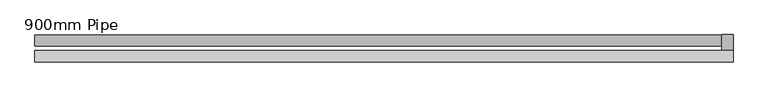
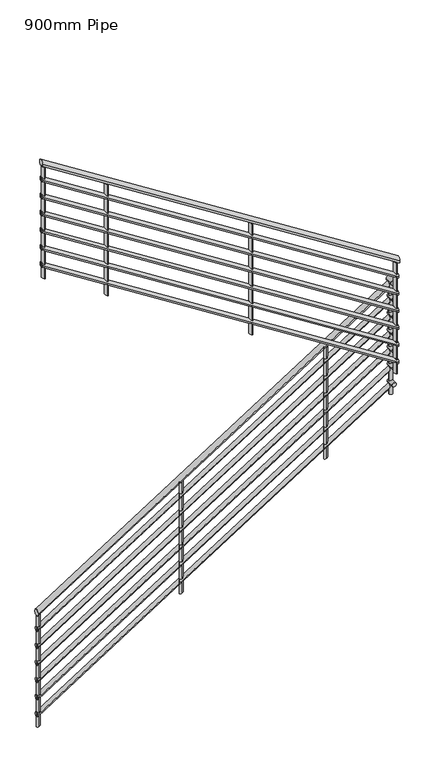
"""IFC4 building model written with IfcOpenShell, lengths in millimetres: railing geometry, 900mm Pipe."""

from ifc_helpers import new_model, si_unit, point, frame, frame_2d, origin, place, context, project, spatial, circle_curve, ellipse_curve, trimmed, segment, composite_curve, outline, extrude, source, transform, mapped, element, save
from ifc_brep_helpers import plane_surface, cylinder_surface, advanced_brep


def railing_900mm_pipe_d5eff310(model_context):
    return source(origin(), model_context, "Body", "SolidModel", [
        advanced_brep(
        [(9044.2181942, -645.4667097, 4551.2938094), (9044.2181942, -685.4667097, 4551.2938094), (11474.2181942, -645.4667097, 6097.6574458), (11474.2181942, -685.4667097, 6097.6574458)],
        [
            (0, 1, ellipse_curve(frame((9044.2181942, -665.4667097, 4551.2938094), z_axis=(-1.0, 0.0, 0.0), x_axis=(0.0, 0.0, -1.0)), 23.7061906, 20.0)),
            (1, 0, ellipse_curve(frame((9044.2181942, -665.4667097, 4551.2938094), z_axis=(-1.0, 0.0, 0.0), x_axis=(0.0, 0.0, -1.0)), 23.7061906, 20.0)),
            (2, 3, ellipse_curve(frame((11474.2181942, -665.4667097, 6097.6574458), z_axis=(1.0, 0.0, 0.0), x_axis=(0.0, 0.0, -1.0)), 23.7061906, 20.0)),
            (3, 2, ellipse_curve(frame((11474.2181942, -665.4667097, 6097.6574458), z_axis=(1.0, 0.0, 0.0), x_axis=(0.0, 0.0, -1.0)), 23.7061906, 20.0)),
            (1, 3),
            (2, 0),
        ],
        [
            plane_surface(frame((9044.2181942, -665.4667097, 4575.0), z_axis=(-1.0, 0.0, 0.0), x_axis=(0.0, 1.0, 0.0))),
            plane_surface(frame((11474.2181942, -665.4667097, 6121.3636364), z_axis=(1.0, 0.0, 0.0), x_axis=(0.0, 1.0, 0.0))),
            cylinder_surface(frame((9054.955704, -665.4667097, 4558.1267702), z_axis=(-0.8436614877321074, 0.0, -0.5368754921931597), x_axis=(0.0, -1.0, 0.0)), 20.0),
        ],
        [
            (0, [[1, 2]]),
            (1, [[3, 4]]),
            (2, [[-2, 5, -3, 6]]),
            (2, [[-1, -6, -4, -5]]),
        ],
    ),
        advanced_brep(
        [(11514.2181942, -645.4667097, 6130.0), (11474.2181942, -645.4667097, 6130.0), (11514.2181942, -702.0090589, 6130.0), (11474.2181942, -702.0090589, 6130.0)],
        [
            (0, 1, circle_curve(frame((11494.2181942, -645.4667097, 6130.0), z_axis=(0.0, 1.0, 0.0), x_axis=(-1.0, 0.0, 0.0)), 20.0)),
            (1, 0, circle_curve(frame((11494.2181942, -645.4667097, 6130.0), z_axis=(0.0, 1.0, 0.0), x_axis=(-1.0, 0.0, 0.0)), 20.0)),
            (2, 3, circle_curve(frame((11494.2181942, -702.0090589, 6130.0), z_axis=(0.0, -1.0, 0.0), x_axis=(-1.0, 0.0, 0.0)), 20.0)),
            (3, 2, circle_curve(frame((11494.2181942, -702.0090589, 6130.0), z_axis=(0.0, -1.0, 0.0), x_axis=(-1.0, 0.0, 0.0)), 20.0)),
            (1, 3),
            (2, 0),
        ],
        [
            plane_surface(frame((11494.2181942, -645.4667097, 6150.0), z_axis=(0.0, 1.0, 0.0), x_axis=(0.0, 0.0, -1.0))),
            plane_surface(frame((11494.2181942, -702.0090589, 6150.0), z_axis=(0.0, -1.0, 0.0), x_axis=(0.0, 0.0, -1.0))),
            cylinder_surface(frame((11494.2181942, -645.4667097, 6130.0), z_axis=(0.0, 1.0, 0.0), x_axis=(-1.0, 0.0, 0.0)), 20.0),
        ],
        [
            (0, [[1, 2]]),
            (1, [[3, 4]]),
            (2, [[-2, 5, -3, 6]]),
            (2, [[-1, -6, -4, -5]]),
        ],
    ),
        advanced_brep(
        [(11514.2181942, -742.0090589, 6304.4756276), (11514.2181942, -702.0090589, 6304.4756276), (9044.2181942, -742.0090589, 7876.2938094), (9044.2181942, -702.0090589, 7876.2938094)],
        [
            (0, 1, ellipse_curve(frame((11514.2181942, -722.0090589, 6304.4756276), z_axis=(1.0, 0.0, 0.0), x_axis=(0.0, 0.0, -1.0)), 23.7061906, 20.0)),
            (1, 0, ellipse_curve(frame((11514.2181942, -722.0090589, 6304.4756276), z_axis=(1.0, 0.0, 0.0), x_axis=(0.0, 0.0, -1.0)), 23.7061906, 20.0)),
            (2, 3, ellipse_curve(frame((9044.2181942, -722.0090589, 7876.2938094), z_axis=(-1.0, 0.0, 0.0), x_axis=(0.0, 0.0, -1.0)), 23.7061906, 20.0)),
            (3, 2, ellipse_curve(frame((9044.2181942, -722.0090589, 7876.2938094), z_axis=(-1.0, 0.0, 0.0), x_axis=(0.0, 0.0, -1.0)), 23.7061906, 20.0)),
            (1, 3),
            (2, 0),
        ],
        [
            plane_surface(frame((11514.2181942, -722.0090589, 6328.1818182), z_axis=(1.0, 0.0, 0.0), x_axis=(0.0, -1.0, 0.0))),
            plane_surface(frame((9044.2181942, -722.0090589, 7900.0), z_axis=(-1.0, 0.0, 0.0), x_axis=(0.0, -1.0, 0.0))),
            cylinder_surface(frame((11503.4806843, -722.0090589, 6311.3085884), z_axis=(0.8436614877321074, 0.0, -0.5368754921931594), x_axis=(0.0, 1.0, 0.0)), 20.0),
        ],
        [
            (0, [[1, 2]]),
            (1, [[3, 4]]),
            (2, [[-2, 5, -3, 6]]),
            (2, [[-1, -6, -4, -5]]),
        ],
    ),
        advanced_brep(
        [(9044.2181942, -650.4667097, 4432.2203571), (9044.2181942, -680.4667097, 4432.2203571), (11479.2181942, -650.4667097, 5981.7658116), (11479.2181942, -680.4667097, 5981.7658116)],
        [
            (0, 1, ellipse_curve(frame((9044.2181942, -665.4667097, 4432.2203571), z_axis=(-1.0, 0.0, 0.0), x_axis=(0.0, 0.0, -1.0)), 17.7796429, 15.0)),
            (1, 0, ellipse_curve(frame((9044.2181942, -665.4667097, 4432.2203571), z_axis=(-1.0, 0.0, 0.0), x_axis=(0.0, 0.0, -1.0)), 17.7796429, 15.0)),
            (2, 3, ellipse_curve(frame((11479.2181942, -665.4667097, 5981.7658116), z_axis=(1.0, 0.0, 0.0), x_axis=(0.0, 0.0, -1.0)), 17.7796429, 15.0)),
            (3, 2, ellipse_curve(frame((11479.2181942, -665.4667097, 5981.7658116), z_axis=(1.0, 0.0, 0.0), x_axis=(0.0, 0.0, -1.0)), 17.7796429, 15.0)),
            (1, 3),
            (2, 0),
        ],
        [
            plane_surface(frame((9044.2181942, -665.4667097, 4450.0), z_axis=(-1.0, 0.0, 0.0), x_axis=(0.0, 1.0, 0.0))),
            plane_surface(frame((11479.2181942, -665.4667097, 5999.5454545), z_axis=(1.0, 0.0, 0.0), x_axis=(0.0, 1.0, 0.0))),
            cylinder_surface(frame((9052.2713265, -665.4667097, 4437.3450777), z_axis=(-0.8436614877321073, 0.0, -0.5368754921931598), x_axis=(0.0, -1.0, 0.0)), 15.0),
        ],
        [
            (0, [[1, 2]]),
            (1, [[3, 4]]),
            (2, [[-2, 5, -3, 6]]),
            (2, [[-1, -6, -4, -5]]),
        ],
    ),
        advanced_brep(
        [(11509.2181942, -650.4667097, 6010.0), (11479.2181942, -650.4667097, 6010.0), (11509.2181942, -707.0090589, 6010.0), (11479.2181942, -707.0090589, 6010.0)],
        [
            (0, 1, circle_curve(frame((11494.2181942, -650.4667097, 6010.0), z_axis=(0.0, 1.0, 0.0), x_axis=(-1.0, 0.0, 0.0)), 15.0)),
            (1, 0, circle_curve(frame((11494.2181942, -650.4667097, 6010.0), z_axis=(0.0, 1.0, 0.0), x_axis=(-1.0, 0.0, 0.0)), 15.0)),
            (2, 3, circle_curve(frame((11494.2181942, -707.0090589, 6010.0), z_axis=(0.0, -1.0, 0.0), x_axis=(-1.0, 0.0, 0.0)), 15.0)),
            (3, 2, circle_curve(frame((11494.2181942, -707.0090589, 6010.0), z_axis=(0.0, -1.0, 0.0), x_axis=(-1.0, 0.0, 0.0)), 15.0)),
            (1, 3),
            (2, 0),
        ],
        [
            plane_surface(frame((11494.2181942, -650.4667097, 6025.0), z_axis=(0.0, 1.0, 0.0), x_axis=(0.0, 0.0, -1.0))),
            plane_surface(frame((11494.2181942, -707.0090589, 6025.0), z_axis=(0.0, -1.0, 0.0), x_axis=(0.0, 0.0, -1.0))),
            cylinder_surface(frame((11494.2181942, -650.4667097, 6010.0), z_axis=(0.0, 1.0, 0.0), x_axis=(-1.0, 0.0, 0.0)), 15.0),
        ],
        [
            (0, [[1, 2]]),
            (1, [[3, 4]]),
            (2, [[-2, 5, -3, 6]]),
            (2, [[-1, -6, -4, -5]]),
        ],
    ),
        advanced_brep(
        [(11509.2181942, -737.0090589, 6188.5839934), (11509.2181942, -707.0090589, 6188.5839934), (9044.2181942, -737.0090589, 7757.2203571), (9044.2181942, -707.0090589, 7757.2203571)],
        [
            (0, 1, ellipse_curve(frame((11509.2181942, -722.0090589, 6188.5839934), z_axis=(1.0, 0.0, 0.0), x_axis=(0.0, 0.0, -1.0)), 17.7796429, 15.0)),
            (1, 0, ellipse_curve(frame((11509.2181942, -722.0090589, 6188.5839934), z_axis=(1.0, 0.0, 0.0), x_axis=(0.0, 0.0, -1.0)), 17.7796429, 15.0)),
            (2, 3, ellipse_curve(frame((9044.2181942, -722.0090589, 7757.2203571), z_axis=(-1.0, 0.0, 0.0), x_axis=(0.0, 0.0, -1.0)), 17.7796429, 15.0)),
            (3, 2, ellipse_curve(frame((9044.2181942, -722.0090589, 7757.2203571), z_axis=(-1.0, 0.0, 0.0), x_axis=(0.0, 0.0, -1.0)), 17.7796429, 15.0)),
            (1, 3),
            (2, 0),
        ],
        [
            plane_surface(frame((11509.2181942, -722.0090589, 6206.3636364), z_axis=(1.0, 0.0, 0.0), x_axis=(0.0, -1.0, 0.0))),
            plane_surface(frame((9044.2181942, -722.0090589, 7775.0), z_axis=(-1.0, 0.0, 0.0), x_axis=(0.0, -1.0, 0.0))),
            cylinder_surface(frame((11501.1650618, -722.0090589, 6193.708714), z_axis=(0.8436614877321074, 0.0, -0.5368754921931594), x_axis=(0.0, 1.0, 0.0)), 15.0),
        ],
        [
            (0, [[1, 2]]),
            (1, [[3, 4]]),
            (2, [[-2, 5, -3, 6]]),
            (2, [[-1, -6, -4, -5]]),
        ],
    ),
        advanced_brep(
        [(9044.2181942, -650.4667097, 4307.2203571), (9044.2181942, -680.4667097, 4307.2203571), (11479.2181942, -650.4667097, 5856.7658116), (11479.2181942, -680.4667097, 5856.7658116)],
        [
            (0, 1, ellipse_curve(frame((9044.2181942, -665.4667097, 4307.2203571), z_axis=(-1.0, 0.0, 0.0), x_axis=(0.0, 0.0, -1.0)), 17.7796429, 15.0)),
            (1, 0, ellipse_curve(frame((9044.2181942, -665.4667097, 4307.2203571), z_axis=(-1.0, 0.0, 0.0), x_axis=(0.0, 0.0, -1.0)), 17.7796429, 15.0)),
            (2, 3, ellipse_curve(frame((11479.2181942, -665.4667097, 5856.7658116), z_axis=(1.0, 0.0, 0.0), x_axis=(0.0, 0.0, -1.0)), 17.7796429, 15.0)),
            (3, 2, ellipse_curve(frame((11479.2181942, -665.4667097, 5856.7658116), z_axis=(1.0, 0.0, 0.0), x_axis=(0.0, 0.0, -1.0)), 17.7796429, 15.0)),
            (1, 3),
            (2, 0),
        ],
        [
            plane_surface(frame((9044.2181942, -665.4667097, 4325.0), z_axis=(-1.0, 0.0, 0.0), x_axis=(0.0, 1.0, 0.0))),
            plane_surface(frame((11479.2181942, -665.4667097, 5874.5454545), z_axis=(1.0, 0.0, 0.0), x_axis=(0.0, 1.0, 0.0))),
            cylinder_surface(frame((9052.2713265, -665.4667097, 4312.3450777), z_axis=(-0.8436614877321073, 0.0, -0.5368754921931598), x_axis=(0.0, -1.0, 0.0)), 15.0),
        ],
        [
            (0, [[1, 2]]),
            (1, [[3, 4]]),
            (2, [[-2, 5, -3, 6]]),
            (2, [[-1, -6, -4, -5]]),
        ],
    ),
        advanced_brep(
        [(11509.2181942, -650.4667097, 5885.0), (11479.2181942, -650.4667097, 5885.0), (11509.2181942, -707.0090589, 5885.0), (11479.2181942, -707.0090589, 5885.0)],
        [
            (0, 1, circle_curve(frame((11494.2181942, -650.4667097, 5885.0), z_axis=(0.0, 1.0, 0.0), x_axis=(-1.0, 0.0, 0.0)), 15.0)),
            (1, 0, circle_curve(frame((11494.2181942, -650.4667097, 5885.0), z_axis=(0.0, 1.0, 0.0), x_axis=(-1.0, 0.0, 0.0)), 15.0)),
            (2, 3, circle_curve(frame((11494.2181942, -707.0090589, 5885.0), z_axis=(0.0, -1.0, 0.0), x_axis=(-1.0, 0.0, 0.0)), 15.0)),
            (3, 2, circle_curve(frame((11494.2181942, -707.0090589, 5885.0), z_axis=(0.0, -1.0, 0.0), x_axis=(-1.0, 0.0, 0.0)), 15.0)),
            (1, 3),
            (2, 0),
        ],
        [
            plane_surface(frame((11494.2181942, -650.4667097, 5900.0), z_axis=(0.0, 1.0, 0.0), x_axis=(0.0, 0.0, -1.0))),
            plane_surface(frame((11494.2181942, -707.0090589, 5900.0), z_axis=(0.0, -1.0, 0.0), x_axis=(0.0, 0.0, -1.0))),
            cylinder_surface(frame((11494.2181942, -650.4667097, 5885.0), z_axis=(0.0, 1.0, 0.0), x_axis=(-1.0, 0.0, 0.0)), 15.0),
        ],
        [
            (0, [[1, 2]]),
            (1, [[3, 4]]),
            (2, [[-2, 5, -3, 6]]),
            (2, [[-1, -6, -4, -5]]),
        ],
    ),
        advanced_brep(
        [(11509.2181942, -737.0090589, 6063.5839934), (11509.2181942, -707.0090589, 6063.5839934), (9044.2181942, -737.0090589, 7632.2203571), (9044.2181942, -707.0090589, 7632.2203571)],
        [
            (0, 1, ellipse_curve(frame((11509.2181942, -722.0090589, 6063.5839934), z_axis=(1.0, 0.0, 0.0), x_axis=(0.0, 0.0, -1.0)), 17.7796429, 15.0)),
            (1, 0, ellipse_curve(frame((11509.2181942, -722.0090589, 6063.5839934), z_axis=(1.0, 0.0, 0.0), x_axis=(0.0, 0.0, -1.0)), 17.7796429, 15.0)),
            (2, 3, ellipse_curve(frame((9044.2181942, -722.0090589, 7632.2203571), z_axis=(-1.0, 0.0, 0.0), x_axis=(0.0, 0.0, -1.0)), 17.7796429, 15.0)),
            (3, 2, ellipse_curve(frame((9044.2181942, -722.0090589, 7632.2203571), z_axis=(-1.0, 0.0, 0.0), x_axis=(0.0, 0.0, -1.0)), 17.7796429, 15.0)),
            (1, 3),
            (2, 0),
        ],
        [
            plane_surface(frame((11509.2181942, -722.0090589, 6081.3636364), z_axis=(1.0, 0.0, 0.0), x_axis=(0.0, -1.0, 0.0))),
            plane_surface(frame((9044.2181942, -722.0090589, 7650.0), z_axis=(-1.0, 0.0, 0.0), x_axis=(0.0, -1.0, 0.0))),
            cylinder_surface(frame((11501.1650618, -722.0090589, 6068.708714), z_axis=(0.8436614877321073, 0.0, -0.5368754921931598), x_axis=(0.0, 1.0, 0.0)), 15.0),
        ],
        [
            (0, [[1, 2]]),
            (1, [[3, 4]]),
            (2, [[-2, 5, -3, 6]]),
            (2, [[-1, -6, -4, -5]]),
        ],
    ),
        advanced_brep(
        [(9044.2181942, -650.4667097, 4182.2203571), (9044.2181942, -680.4667097, 4182.2203571), (11479.2181942, -650.4667097, 5731.7658116), (11479.2181942, -680.4667097, 5731.7658116)],
        [
            (0, 1, ellipse_curve(frame((9044.2181942, -665.4667097, 4182.2203571), z_axis=(-1.0, 0.0, 0.0), x_axis=(0.0, 0.0, -1.0)), 17.7796429, 15.0)),
            (1, 0, ellipse_curve(frame((9044.2181942, -665.4667097, 4182.2203571), z_axis=(-1.0, 0.0, 0.0), x_axis=(0.0, 0.0, -1.0)), 17.7796429, 15.0)),
            (2, 3, ellipse_curve(frame((11479.2181942, -665.4667097, 5731.7658116), z_axis=(1.0, 0.0, 0.0), x_axis=(0.0, 0.0, -1.0)), 17.7796429, 15.0)),
            (3, 2, ellipse_curve(frame((11479.2181942, -665.4667097, 5731.7658116), z_axis=(1.0, 0.0, 0.0), x_axis=(0.0, 0.0, -1.0)), 17.7796429, 15.0)),
            (1, 3),
            (2, 0),
        ],
        [
            plane_surface(frame((9044.2181942, -665.4667097, 4200.0), z_axis=(-1.0, 0.0, 0.0), x_axis=(0.0, 1.0, 0.0))),
            plane_surface(frame((11479.2181942, -665.4667097, 5749.5454545), z_axis=(1.0, 0.0, 0.0), x_axis=(0.0, 1.0, 0.0))),
            cylinder_surface(frame((9052.2713265, -665.4667097, 4187.3450777), z_axis=(-0.8436614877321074, 0.0, -0.5368754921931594), x_axis=(0.0, -1.0, 0.0)), 15.0),
        ],
        [
            (0, [[1, 2]]),
            (1, [[3, 4]]),
            (2, [[-2, 5, -3, 6]]),
            (2, [[-1, -6, -4, -5]]),
        ],
    ),
        advanced_brep(
        [(11509.2181942, -650.4667097, 5760.0), (11479.2181942, -650.4667097, 5760.0), (11509.2181942, -707.0090589, 5760.0), (11479.2181942, -707.0090589, 5760.0)],
        [
            (0, 1, circle_curve(frame((11494.2181942, -650.4667097, 5760.0), z_axis=(0.0, 1.0, 0.0), x_axis=(-1.0, 0.0, 0.0)), 15.0)),
            (1, 0, circle_curve(frame((11494.2181942, -650.4667097, 5760.0), z_axis=(0.0, 1.0, 0.0), x_axis=(-1.0, 0.0, 0.0)), 15.0)),
            (2, 3, circle_curve(frame((11494.2181942, -707.0090589, 5760.0), z_axis=(0.0, -1.0, 0.0), x_axis=(-1.0, 0.0, 0.0)), 15.0)),
            (3, 2, circle_curve(frame((11494.2181942, -707.0090589, 5760.0), z_axis=(0.0, -1.0, 0.0), x_axis=(-1.0, 0.0, 0.0)), 15.0)),
            (1, 3),
            (2, 0),
        ],
        [
            plane_surface(frame((11494.2181942, -650.4667097, 5775.0), z_axis=(0.0, 1.0, 0.0), x_axis=(0.0, 0.0, -1.0))),
            plane_surface(frame((11494.2181942, -707.0090589, 5775.0), z_axis=(0.0, -1.0, 0.0), x_axis=(0.0, 0.0, -1.0))),
            cylinder_surface(frame((11494.2181942, -650.4667097, 5760.0), z_axis=(0.0, 1.0, 0.0), x_axis=(-1.0, 0.0, 0.0)), 15.0),
        ],
        [
            (0, [[1, 2]]),
            (1, [[3, 4]]),
            (2, [[-2, 5, -3, 6]]),
            (2, [[-1, -6, -4, -5]]),
        ],
    ),
        advanced_brep(
        [(11509.2181942, -737.0090589, 5938.5839934), (11509.2181942, -707.0090589, 5938.5839934), (9044.2181942, -737.0090589, 7507.2203571), (9044.2181942, -707.0090589, 7507.2203571)],
        [
            (0, 1, ellipse_curve(frame((11509.2181942, -722.0090589, 5938.5839934), z_axis=(1.0, 0.0, 0.0), x_axis=(0.0, 0.0, -1.0)), 17.7796429, 15.0)),
            (1, 0, ellipse_curve(frame((11509.2181942, -722.0090589, 5938.5839934), z_axis=(1.0, 0.0, 0.0), x_axis=(0.0, 0.0, -1.0)), 17.7796429, 15.0)),
            (2, 3, ellipse_curve(frame((9044.2181942, -722.0090589, 7507.2203571), z_axis=(-1.0, 0.0, 0.0), x_axis=(0.0, 0.0, -1.0)), 17.7796429, 15.0)),
            (3, 2, ellipse_curve(frame((9044.2181942, -722.0090589, 7507.2203571), z_axis=(-1.0, 0.0, 0.0), x_axis=(0.0, 0.0, -1.0)), 17.7796429, 15.0)),
            (1, 3),
            (2, 0),
        ],
        [
            plane_surface(frame((11509.2181942, -722.0090589, 5956.3636364), z_axis=(1.0, 0.0, 0.0), x_axis=(0.0, -1.0, 0.0))),
            plane_surface(frame((9044.2181942, -722.0090589, 7525.0), z_axis=(-1.0, 0.0, 0.0), x_axis=(0.0, -1.0, 0.0))),
            cylinder_surface(frame((11501.1650618, -722.0090589, 5943.708714), z_axis=(0.8436614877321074, 0.0, -0.5368754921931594), x_axis=(0.0, 1.0, 0.0)), 15.0),
        ],
        [
            (0, [[1, 2]]),
            (1, [[3, 4]]),
            (2, [[-2, 5, -3, 6]]),
            (2, [[-1, -6, -4, -5]]),
        ],
    ),
        advanced_brep(
        [(9044.2181942, -650.4667097, 4057.2203571), (9044.2181942, -680.4667097, 4057.2203571), (11479.2181942, -650.4667097, 5606.7658116), (11479.2181942, -680.4667097, 5606.7658116)],
        [
            (0, 1, ellipse_curve(frame((9044.2181942, -665.4667097, 4057.2203571), z_axis=(-1.0, 0.0, 0.0), x_axis=(0.0, 0.0, -1.0)), 17.7796429, 15.0)),
            (1, 0, ellipse_curve(frame((9044.2181942, -665.4667097, 4057.2203571), z_axis=(-1.0, 0.0, 0.0), x_axis=(0.0, 0.0, -1.0)), 17.7796429, 15.0)),
            (2, 3, ellipse_curve(frame((11479.2181942, -665.4667097, 5606.7658116), z_axis=(1.0, 0.0, 0.0), x_axis=(0.0, 0.0, -1.0)), 17.7796429, 15.0)),
            (3, 2, ellipse_curve(frame((11479.2181942, -665.4667097, 5606.7658116), z_axis=(1.0, 0.0, 0.0), x_axis=(0.0, 0.0, -1.0)), 17.7796429, 15.0)),
            (1, 3),
            (2, 0),
        ],
        [
            plane_surface(frame((9044.2181942, -665.4667097, 4075.0), z_axis=(-1.0, 0.0, 0.0), x_axis=(0.0, 1.0, 0.0))),
            plane_surface(frame((11479.2181942, -665.4667097, 5624.5454545), z_axis=(1.0, 0.0, 0.0), x_axis=(0.0, 1.0, 0.0))),
            cylinder_surface(frame((9052.2713265, -665.4667097, 4062.3450777), z_axis=(-0.8436614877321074, 0.0, -0.5368754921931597), x_axis=(0.0, -1.0, 0.0)), 15.0),
        ],
        [
            (0, [[1, 2]]),
            (1, [[3, 4]]),
            (2, [[-2, 5, -3, 6]]),
            (2, [[-1, -6, -4, -5]]),
        ],
    ),
        advanced_brep(
        [(11509.2181942, -650.4667097, 5635.0), (11479.2181942, -650.4667097, 5635.0), (11509.2181942, -707.0090589, 5635.0), (11479.2181942, -707.0090589, 5635.0)],
        [
            (0, 1, circle_curve(frame((11494.2181942, -650.4667097, 5635.0), z_axis=(0.0, 1.0, 0.0), x_axis=(-1.0, 0.0, 0.0)), 15.0)),
            (1, 0, circle_curve(frame((11494.2181942, -650.4667097, 5635.0), z_axis=(0.0, 1.0, 0.0), x_axis=(-1.0, 0.0, 0.0)), 15.0)),
            (2, 3, circle_curve(frame((11494.2181942, -707.0090589, 5635.0), z_axis=(0.0, -1.0, 0.0), x_axis=(-1.0, 0.0, 0.0)), 15.0)),
            (3, 2, circle_curve(frame((11494.2181942, -707.0090589, 5635.0), z_axis=(0.0, -1.0, 0.0), x_axis=(-1.0, 0.0, 0.0)), 15.0)),
            (1, 3),
            (2, 0),
        ],
        [
            plane_surface(frame((11494.2181942, -650.4667097, 5650.0), z_axis=(0.0, 1.0, 0.0), x_axis=(0.0, 0.0, -1.0))),
            plane_surface(frame((11494.2181942, -707.0090589, 5650.0), z_axis=(0.0, -1.0, 0.0), x_axis=(0.0, 0.0, -1.0))),
            cylinder_surface(frame((11494.2181942, -650.4667097, 5635.0), z_axis=(0.0, 1.0, 0.0), x_axis=(-1.0, 0.0, 0.0)), 15.0),
        ],
        [
            (0, [[1, 2]]),
            (1, [[3, 4]]),
            (2, [[-2, 5, -3, 6]]),
            (2, [[-1, -6, -4, -5]]),
        ],
    ),
        advanced_brep(
        [(11509.2181942, -737.0090589, 5813.5839934), (11509.2181942, -707.0090589, 5813.5839934), (9044.2181942, -737.0090589, 7382.2203571), (9044.2181942, -707.0090589, 7382.2203571)],
        [
            (0, 1, ellipse_curve(frame((11509.2181942, -722.0090589, 5813.5839934), z_axis=(1.0, 0.0, 0.0), x_axis=(0.0, 0.0, -1.0)), 17.7796429, 15.0)),
            (1, 0, ellipse_curve(frame((11509.2181942, -722.0090589, 5813.5839934), z_axis=(1.0, 0.0, 0.0), x_axis=(0.0, 0.0, -1.0)), 17.7796429, 15.0)),
            (2, 3, ellipse_curve(frame((9044.2181942, -722.0090589, 7382.2203571), z_axis=(-1.0, 0.0, 0.0), x_axis=(0.0, 0.0, -1.0)), 17.7796429, 15.0)),
            (3, 2, ellipse_curve(frame((9044.2181942, -722.0090589, 7382.2203571), z_axis=(-1.0, 0.0, 0.0), x_axis=(0.0, 0.0, -1.0)), 17.7796429, 15.0)),
            (1, 3),
            (2, 0),
        ],
        [
            plane_surface(frame((11509.2181942, -722.0090589, 5831.3636364), z_axis=(1.0, 0.0, 0.0), x_axis=(0.0, -1.0, 0.0))),
            plane_surface(frame((9044.2181942, -722.0090589, 7400.0), z_axis=(-1.0, 0.0, 0.0), x_axis=(0.0, -1.0, 0.0))),
            cylinder_surface(frame((11501.1650618, -722.0090589, 5818.708714), z_axis=(0.8436614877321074, 0.0, -0.5368754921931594), x_axis=(0.0, 1.0, 0.0)), 15.0),
        ],
        [
            (0, [[1, 2]]),
            (1, [[3, 4]]),
            (2, [[-2, 5, -3, 6]]),
            (2, [[-1, -6, -4, -5]]),
        ],
    ),
        advanced_brep(
        [(9044.2181942, -650.4667097, 3932.2203571), (9044.2181942, -680.4667097, 3932.2203571), (11479.2181942, -650.4667097, 5481.7658116), (11479.2181942, -680.4667097, 5481.7658116)],
        [
            (0, 1, ellipse_curve(frame((9044.2181942, -665.4667097, 3932.2203571), z_axis=(-1.0, 0.0, 0.0), x_axis=(0.0, 0.0, -1.0)), 17.7796429, 15.0)),
            (1, 0, ellipse_curve(frame((9044.2181942, -665.4667097, 3932.2203571), z_axis=(-1.0, 0.0, 0.0), x_axis=(0.0, 0.0, -1.0)), 17.7796429, 15.0)),
            (2, 3, ellipse_curve(frame((11479.2181942, -665.4667097, 5481.7658116), z_axis=(1.0, 0.0, 0.0), x_axis=(0.0, 0.0, -1.0)), 17.7796429, 15.0)),
            (3, 2, ellipse_curve(frame((11479.2181942, -665.4667097, 5481.7658116), z_axis=(1.0, 0.0, 0.0), x_axis=(0.0, 0.0, -1.0)), 17.7796429, 15.0)),
            (1, 3),
            (2, 0),
        ],
        [
            plane_surface(frame((9044.2181942, -665.4667097, 3950.0), z_axis=(-1.0, 0.0, 0.0), x_axis=(0.0, 1.0, 0.0))),
            plane_surface(frame((11479.2181942, -665.4667097, 5499.5454545), z_axis=(1.0, 0.0, 0.0), x_axis=(0.0, 1.0, 0.0))),
            cylinder_surface(frame((9052.2713265, -665.4667097, 3937.3450777), z_axis=(-0.8436614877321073, 0.0, -0.5368754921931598), x_axis=(0.0, -1.0, 0.0)), 15.0),
        ],
        [
            (0, [[1, 2]]),
            (1, [[3, 4]]),
            (2, [[-2, 5, -3, 6]]),
            (2, [[-1, -6, -4, -5]]),
        ],
    ),
        advanced_brep(
        [(11509.2181942, -650.4667097, 5510.0), (11479.2181942, -650.4667097, 5510.0), (11509.2181942, -707.0090589, 5510.0), (11479.2181942, -707.0090589, 5510.0)],
        [
            (0, 1, circle_curve(frame((11494.2181942, -650.4667097, 5510.0), z_axis=(0.0, 1.0, 0.0), x_axis=(-1.0, 0.0, 0.0)), 15.0)),
            (1, 0, circle_curve(frame((11494.2181942, -650.4667097, 5510.0), z_axis=(0.0, 1.0, 0.0), x_axis=(-1.0, 0.0, 0.0)), 15.0)),
            (2, 3, circle_curve(frame((11494.2181942, -707.0090589, 5510.0), z_axis=(0.0, -1.0, 0.0), x_axis=(-1.0, 0.0, 0.0)), 15.0)),
            (3, 2, circle_curve(frame((11494.2181942, -707.0090589, 5510.0), z_axis=(0.0, -1.0, 0.0), x_axis=(-1.0, 0.0, 0.0)), 15.0)),
            (1, 3),
            (2, 0),
        ],
        [
            plane_surface(frame((11494.2181942, -650.4667097, 5525.0), z_axis=(0.0, 1.0, 0.0), x_axis=(0.0, 0.0, -1.0))),
            plane_surface(frame((11494.2181942, -707.0090589, 5525.0), z_axis=(0.0, -1.0, 0.0), x_axis=(0.0, 0.0, -1.0))),
            cylinder_surface(frame((11494.2181942, -650.4667097, 5510.0), z_axis=(0.0, 1.0, 0.0), x_axis=(-1.0, 0.0, 0.0)), 15.0),
        ],
        [
            (0, [[1, 2]]),
            (1, [[3, 4]]),
            (2, [[-2, 5, -3, 6]]),
            (2, [[-1, -6, -4, -5]]),
        ],
    ),
        advanced_brep(
        [(11509.2181942, -737.0090589, 5688.5839934), (11509.2181942, -707.0090589, 5688.5839934), (9044.2181942, -737.0090589, 7257.2203571), (9044.2181942, -707.0090589, 7257.2203571)],
        [
            (0, 1, ellipse_curve(frame((11509.2181942, -722.0090589, 5688.5839934), z_axis=(1.0, 0.0, 0.0), x_axis=(0.0, 0.0, -1.0)), 17.7796429, 15.0)),
            (1, 0, ellipse_curve(frame((11509.2181942, -722.0090589, 5688.5839934), z_axis=(1.0, 0.0, 0.0), x_axis=(0.0, 0.0, -1.0)), 17.7796429, 15.0)),
            (2, 3, ellipse_curve(frame((9044.2181942, -722.0090589, 7257.2203571), z_axis=(-1.0, 0.0, 0.0), x_axis=(0.0, 0.0, -1.0)), 17.7796429, 15.0)),
            (3, 2, ellipse_curve(frame((9044.2181942, -722.0090589, 7257.2203571), z_axis=(-1.0, 0.0, 0.0), x_axis=(0.0, 0.0, -1.0)), 17.7796429, 15.0)),
            (1, 3),
            (2, 0),
        ],
        [
            plane_surface(frame((11509.2181942, -722.0090589, 5706.3636364), z_axis=(1.0, 0.0, 0.0), x_axis=(0.0, -1.0, 0.0))),
            plane_surface(frame((9044.2181942, -722.0090589, 7275.0), z_axis=(-1.0, 0.0, 0.0), x_axis=(0.0, -1.0, 0.0))),
            cylinder_surface(frame((11501.1650618, -722.0090589, 5693.708714), z_axis=(0.8436614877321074, 0.0, -0.5368754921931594), x_axis=(0.0, 1.0, 0.0)), 15.0),
        ],
        [
            (0, [[1, 2]]),
            (1, [[3, 4]]),
            (2, [[-2, 5, -3, 6]]),
            (2, [[-1, -6, -4, -5]]),
        ],
    ),
        advanced_brep(
        [(9044.2181942, -650.4667097, 3807.2203571), (9044.2181942, -680.4667097, 3807.2203571), (11479.2181942, -650.4667097, 5356.7658116), (11479.2181942, -680.4667097, 5356.7658116)],
        [
            (0, 1, ellipse_curve(frame((9044.2181942, -665.4667097, 3807.2203571), z_axis=(-1.0, 0.0, 0.0), x_axis=(0.0, 0.0, -1.0)), 17.7796429, 15.0)),
            (1, 0, ellipse_curve(frame((9044.2181942, -665.4667097, 3807.2203571), z_axis=(-1.0, 0.0, 0.0), x_axis=(0.0, 0.0, -1.0)), 17.7796429, 15.0)),
            (2, 3, ellipse_curve(frame((11479.2181942, -665.4667097, 5356.7658116), z_axis=(1.0, 0.0, 0.0), x_axis=(0.0, 0.0, -1.0)), 17.7796429, 15.0)),
            (3, 2, ellipse_curve(frame((11479.2181942, -665.4667097, 5356.7658116), z_axis=(1.0, 0.0, 0.0), x_axis=(0.0, 0.0, -1.0)), 17.7796429, 15.0)),
            (1, 3),
            (2, 0),
        ],
        [
            plane_surface(frame((9044.2181942, -665.4667097, 3825.0), z_axis=(-1.0, 0.0, 0.0), x_axis=(0.0, 1.0, 0.0))),
            plane_surface(frame((11479.2181942, -665.4667097, 5374.5454545), z_axis=(1.0, 0.0, 0.0), x_axis=(0.0, 1.0, 0.0))),
            cylinder_surface(frame((9052.2713265, -665.4667097, 3812.3450777), z_axis=(-0.8436614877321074, 0.0, -0.5368754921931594), x_axis=(0.0, -1.0, 0.0)), 15.0),
        ],
        [
            (0, [[1, 2]]),
            (1, [[3, 4]]),
            (2, [[-2, 5, -3, 6]]),
            (2, [[-1, -6, -4, -5]]),
        ],
    ),
        advanced_brep(
        [(11509.2181942, -650.4667097, 5385.0), (11479.2181942, -650.4667097, 5385.0), (11509.2181942, -707.0090589, 5385.0), (11479.2181942, -707.0090589, 5385.0)],
        [
            (0, 1, circle_curve(frame((11494.2181942, -650.4667097, 5385.0), z_axis=(0.0, 1.0, 0.0), x_axis=(-1.0, 0.0, 0.0)), 15.0)),
            (1, 0, circle_curve(frame((11494.2181942, -650.4667097, 5385.0), z_axis=(0.0, 1.0, 0.0), x_axis=(-1.0, 0.0, 0.0)), 15.0)),
            (2, 3, circle_curve(frame((11494.2181942, -707.0090589, 5385.0), z_axis=(0.0, -1.0, 0.0), x_axis=(-1.0, 0.0, 0.0)), 15.0)),
            (3, 2, circle_curve(frame((11494.2181942, -707.0090589, 5385.0), z_axis=(0.0, -1.0, 0.0), x_axis=(-1.0, 0.0, 0.0)), 15.0)),
            (1, 3),
            (2, 0),
        ],
        [
            plane_surface(frame((11494.2181942, -650.4667097, 5400.0), z_axis=(0.0, 1.0, 0.0), x_axis=(0.0, 0.0, -1.0))),
            plane_surface(frame((11494.2181942, -707.0090589, 5400.0), z_axis=(0.0, -1.0, 0.0), x_axis=(0.0, 0.0, -1.0))),
            cylinder_surface(frame((11494.2181942, -650.4667097, 5385.0), z_axis=(0.0, 1.0, 0.0), x_axis=(-1.0, 0.0, 0.0)), 15.0),
        ],
        [
            (0, [[1, 2]]),
            (1, [[3, 4]]),
            (2, [[-2, 5, -3, 6]]),
            (2, [[-1, -6, -4, -5]]),
        ],
    ),
        advanced_brep(
        [(11509.2181942, -737.0090589, 5563.5839934), (11509.2181942, -707.0090589, 5563.5839934), (9044.2181942, -737.0090589, 7132.2203571), (9044.2181942, -707.0090589, 7132.2203571)],
        [
            (0, 1, ellipse_curve(frame((11509.2181942, -722.0090589, 5563.5839934), z_axis=(1.0, 0.0, 0.0), x_axis=(0.0, 0.0, -1.0)), 17.7796429, 15.0)),
            (1, 0, ellipse_curve(frame((11509.2181942, -722.0090589, 5563.5839934), z_axis=(1.0, 0.0, 0.0), x_axis=(0.0, 0.0, -1.0)), 17.7796429, 15.0)),
            (2, 3, ellipse_curve(frame((9044.2181942, -722.0090589, 7132.2203571), z_axis=(-1.0, 0.0, 0.0), x_axis=(0.0, 0.0, -1.0)), 17.7796429, 15.0)),
            (3, 2, ellipse_curve(frame((9044.2181942, -722.0090589, 7132.2203571), z_axis=(-1.0, 0.0, 0.0), x_axis=(0.0, 0.0, -1.0)), 17.7796429, 15.0)),
            (1, 3),
            (2, 0),
        ],
        [
            plane_surface(frame((11509.2181942, -722.0090589, 5581.3636364), z_axis=(1.0, 0.0, 0.0), x_axis=(0.0, -1.0, 0.0))),
            plane_surface(frame((9044.2181942, -722.0090589, 7150.0), z_axis=(-1.0, 0.0, 0.0), x_axis=(0.0, -1.0, 0.0))),
            cylinder_surface(frame((11501.1650618, -722.0090589, 5568.708714), z_axis=(0.8436614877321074, 0.0, -0.5368754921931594), x_axis=(0.0, 1.0, 0.0)), 15.0),
        ],
        [
            (0, [[1, 2]]),
            (1, [[3, 4]]),
            (2, [[-2, 5, -3, 6]]),
            (2, [[-1, -6, -4, -5]]),
        ],
    ),
        advanced_brep(
        [(9494.2181942, -709.5090589, 7566.2239825), (9494.2181942, -709.5090589, 6754.1032768), (9494.2181942, -734.5090589, 6754.1032768), (9494.2181942, -734.5090589, 7566.2239825)],
        [
            (0, 1),
            (1, 2, ellipse_curve(frame((9494.2181942, -722.0090589, 6754.1032768), z_axis=(0.5368754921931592, 0.0, 0.8436614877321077), x_axis=(-0.8436614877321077, 0.0, 0.5368754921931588)), 14.8163691, 12.5)),
            (2, 3),
            (3, 0, ellipse_curve(frame((9494.2181942, -722.0090589, 7566.2239825), z_axis=(-0.5368754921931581, 0.0, -0.8436614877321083), x_axis=(-0.8436614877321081, 0.0, 0.5368754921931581)), 14.8163691, 12.5)),
            (0, 3, ellipse_curve(frame((9494.2181942, -722.0090589, 7566.2239825), z_axis=(-0.5368754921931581, 0.0, -0.8436614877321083), x_axis=(-0.8436614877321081, 0.0, 0.5368754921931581)), 14.8163691, 12.5)),
            (2, 1, ellipse_curve(frame((9494.2181942, -722.0090589, 6754.1032768), z_axis=(0.5368754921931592, 0.0, 0.8436614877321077), x_axis=(-0.8436614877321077, 0.0, 0.5368754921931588)), 14.8163691, 12.5)),
        ],
        [
            cylinder_surface(frame((9494.2181942, -722.0090589, 6654.1032768), z_axis=(0.0, 0.0, 1.0), x_axis=(0.0, -1.0, 0.0)), 12.5),
            plane_surface(frame((9469.2181942, -747.0090589, 7582.1330734), z_axis=(0.5368754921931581, 0.0, 0.8436614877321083), x_axis=(0.0, 1.0, 0.0))),
            plane_surface(frame((9519.2181942, -747.0090589, 6738.1941859), z_axis=(-0.5368754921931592, 0.0, -0.8436614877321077), x_axis=(0.0, 1.0, 0.0))),
        ],
        [
            (0, [[1, 2, 3, 4]]),
            (0, [[-1, 5, -3, 6]]),
            (1, [[-4, -5]]),
            (2, [[-2, -6]]),
        ],
    ),
        advanced_brep(
        [(10494.2181942, -709.5090589, 6929.8603461), (10494.2181942, -709.5090589, 6117.7396405), (10494.2181942, -734.5090589, 6117.7396405), (10494.2181942, -734.5090589, 6929.8603461)],
        [
            (0, 1),
            (1, 2, ellipse_curve(frame((10494.2181942, -722.0090589, 6117.7396405), z_axis=(0.5368754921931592, 0.0, 0.8436614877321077), x_axis=(-0.8436614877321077, 0.0, 0.5368754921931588)), 14.8163691, 12.5)),
            (2, 3),
            (3, 0, ellipse_curve(frame((10494.2181942, -722.0090589, 6929.8603461), z_axis=(-0.5368754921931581, 0.0, -0.8436614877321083), x_axis=(-0.8436614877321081, 0.0, 0.5368754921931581)), 14.8163691, 12.5)),
            (0, 3, ellipse_curve(frame((10494.2181942, -722.0090589, 6929.8603461), z_axis=(-0.5368754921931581, 0.0, -0.8436614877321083), x_axis=(-0.8436614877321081, 0.0, 0.5368754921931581)), 14.8163691, 12.5)),
            (2, 1, ellipse_curve(frame((10494.2181942, -722.0090589, 6117.7396405), z_axis=(0.5368754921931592, 0.0, 0.8436614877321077), x_axis=(-0.8436614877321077, 0.0, 0.5368754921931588)), 14.8163691, 12.5)),
        ],
        [
            cylinder_surface(frame((10494.2181942, -722.0090589, 6017.7396405), z_axis=(0.0, 0.0, 1.0), x_axis=(0.0, -1.0, 0.0)), 12.5),
            plane_surface(frame((10469.2181942, -747.0090589, 6945.7694371), z_axis=(0.5368754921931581, 0.0, 0.8436614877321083), x_axis=(0.0, 1.0, 0.0))),
            plane_surface(frame((10519.2181942, -747.0090589, 6101.8305496), z_axis=(-0.5368754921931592, 0.0, -0.8436614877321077), x_axis=(0.0, 1.0, 0.0))),
        ],
        [
            (0, [[1, 2, 3, 4]]),
            (0, [[-1, 5, -3, 6]]),
            (1, [[-4, -5]]),
            (2, [[-2, -6]]),
        ],
    ),
        advanced_brep(
        [(11044.2181942, -677.9667097, 5800.3148916), (11044.2181942, -677.9667097, 4988.1941859), (11044.2181942, -652.9667097, 4988.1941859), (11044.2181942, -652.9667097, 5800.3148916)],
        [
            (0, 1),
            (1, 2, ellipse_curve(frame((11044.2181942, -665.4667097, 4988.1941859), z_axis=(-0.5368754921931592, 0.0, 0.8436614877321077), x_axis=(0.8436614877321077, 0.0, 0.5368754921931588)), 14.8163691, 12.5)),
            (2, 3),
            (3, 0, ellipse_curve(frame((11044.2181942, -665.4667097, 5800.3148916), z_axis=(0.5368754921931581, 0.0, -0.8436614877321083), x_axis=(0.8436614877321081, 0.0, 0.5368754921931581)), 14.8163691, 12.5)),
            (0, 3, ellipse_curve(frame((11044.2181942, -665.4667097, 5800.3148916), z_axis=(0.5368754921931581, 0.0, -0.8436614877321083), x_axis=(0.8436614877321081, 0.0, 0.5368754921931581)), 14.8163691, 12.5)),
            (2, 1, ellipse_curve(frame((11044.2181942, -665.4667097, 4988.1941859), z_axis=(-0.5368754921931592, 0.0, 0.8436614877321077), x_axis=(0.8436614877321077, 0.0, 0.5368754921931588)), 14.8163691, 12.5)),
        ],
        [
            cylinder_surface(frame((11044.2181942, -665.4667097, 4888.1941859), z_axis=(0.0, 0.0, 1.0), x_axis=(0.0, 1.0, 0.0)), 12.5),
            plane_surface(frame((11069.2181942, -640.4667097, 5816.2239825), z_axis=(-0.5368754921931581, 0.0, 0.8436614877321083), x_axis=(0.0, -1.0, 0.0))),
            plane_surface(frame((11019.2181942, -640.4667097, 4972.285095), z_axis=(0.5368754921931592, 0.0, -0.8436614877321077), x_axis=(0.0, -1.0, 0.0))),
        ],
        [
            (0, [[1, 2, 3, 4]]),
            (0, [[-1, 5, -3, 6]]),
            (1, [[-4, -5]]),
            (2, [[-2, -6]]),
        ],
    ),
        advanced_brep(
        [(10044.2181942, -677.9667097, 5163.9512552), (10044.2181942, -677.9667097, 4351.8305496), (10044.2181942, -652.9667097, 4351.8305496), (10044.2181942, -652.9667097, 5163.9512552)],
        [
            (0, 1),
            (1, 2, ellipse_curve(frame((10044.2181942, -665.4667097, 4351.8305496), z_axis=(-0.5368754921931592, 0.0, 0.8436614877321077), x_axis=(0.8436614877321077, 0.0, 0.5368754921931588)), 14.8163691, 12.5)),
            (2, 3),
            (3, 0, ellipse_curve(frame((10044.2181942, -665.4667097, 5163.9512552), z_axis=(0.5368754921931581, 0.0, -0.8436614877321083), x_axis=(0.8436614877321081, 0.0, 0.5368754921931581)), 14.8163691, 12.5)),
            (0, 3, ellipse_curve(frame((10044.2181942, -665.4667097, 5163.9512552), z_axis=(0.5368754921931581, 0.0, -0.8436614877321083), x_axis=(0.8436614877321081, 0.0, 0.5368754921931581)), 14.8163691, 12.5)),
            (2, 1, ellipse_curve(frame((10044.2181942, -665.4667097, 4351.8305496), z_axis=(-0.5368754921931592, 0.0, 0.8436614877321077), x_axis=(0.8436614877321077, 0.0, 0.5368754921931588)), 14.8163691, 12.5)),
        ],
        [
            cylinder_surface(frame((10044.2181942, -665.4667097, 4251.8305496), z_axis=(0.0, 0.0, 1.0), x_axis=(0.0, 1.0, 0.0)), 12.5),
            plane_surface(frame((10069.2181942, -640.4667097, 5179.8603461), z_axis=(-0.5368754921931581, 0.0, 0.8436614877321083), x_axis=(0.0, -1.0, 0.0))),
            plane_surface(frame((10019.2181942, -640.4667097, 4335.9214587), z_axis=(0.5368754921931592, 0.0, -0.8436614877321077), x_axis=(0.0, -1.0, 0.0))),
        ],
        [
            (0, [[1, 2, 3, 4]]),
            (0, [[-1, 5, -3, 6]]),
            (1, [[-4, -5]]),
            (2, [[-2, -6]]),
        ],
    ),
        advanced_brep(
        [(11494.2181942, -709.5090589, 6293.4967098), (11494.2181942, -709.5090589, 5481.3760041), (11494.2181942, -734.5090589, 5481.3760041), (11494.2181942, -734.5090589, 6293.4967098)],
        [
            (0, 1),
            (1, 2, ellipse_curve(frame((11494.2181942, -722.0090589, 5481.3760041), z_axis=(0.5368754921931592, 0.0, 0.8436614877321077), x_axis=(-0.8436614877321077, 0.0, 0.5368754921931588)), 14.8163691, 12.5)),
            (2, 3),
            (3, 0, ellipse_curve(frame((11494.2181942, -722.0090589, 6293.4967098), z_axis=(-0.5368754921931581, 0.0, -0.8436614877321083), x_axis=(-0.8436614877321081, 0.0, 0.5368754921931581)), 14.8163691, 12.5)),
            (0, 3, ellipse_curve(frame((11494.2181942, -722.0090589, 6293.4967098), z_axis=(-0.5368754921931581, 0.0, -0.8436614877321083), x_axis=(-0.8436614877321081, 0.0, 0.5368754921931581)), 14.8163691, 12.5)),
            (2, 1, ellipse_curve(frame((11494.2181942, -722.0090589, 5481.3760041), z_axis=(0.5368754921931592, 0.0, 0.8436614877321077), x_axis=(-0.8436614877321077, 0.0, 0.5368754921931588)), 14.8163691, 12.5)),
        ],
        [
            cylinder_surface(frame((11494.2181942, -722.0090589, 5381.3760041), z_axis=(0.0, 0.0, 1.0), x_axis=(0.0, -1.0, 0.0)), 12.5),
            plane_surface(frame((11469.2181942, -747.0090589, 6309.4058007), z_axis=(0.5368754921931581, 0.0, 0.8436614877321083), x_axis=(0.0, 1.0, 0.0))),
            plane_surface(frame((11519.2181942, -747.0090589, 5465.4669132), z_axis=(-0.5368754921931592, 0.0, -0.8436614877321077), x_axis=(0.0, 1.0, 0.0))),
        ],
        [
            (0, [[1, 2, 3, 4]]),
            (0, [[-1, 5, -3, 6]]),
            (1, [[-4, -5]]),
            (2, [[-2, -6]]),
        ],
    ),
        extrude(outline(composite_curve([segment(trimmed(circle_curve(frame_2d((11494.2181942, -665.4667097)), 12.5), [point((11506.7181942, -665.4667097))], [point((11481.7181942, -665.4667097))], False, "CARTESIAN"), True, "CONTINUOUS"), segment(trimmed(circle_curve(frame_2d((11494.2181942, -665.4667097)), 12.5), [point((11481.7181942, -665.4667097))], [point((11506.7181942, -665.4667097))], False, "CARTESIAN"), True, "CONTINUOUS")], self_intersect=False)), frame((0.0, 0.0, 5297.393727), z_axis=(0.0, 0.0, 1.0), x_axis=(1.0, 0.0, 0.0)), (0.0, 0.0, 1.0), 812.606273),
        advanced_brep(
        [(9056.7181942, -709.5090589, 7844.6330734), (9056.7181942, -709.5090589, 7032.5123678), (9056.7181942, -734.5090589, 7032.5123678), (9056.7181942, -734.5090589, 7844.6330734)],
        [
            (0, 1),
            (1, 2, ellipse_curve(frame((9056.7181942, -722.0090589, 7032.5123678), z_axis=(0.5368754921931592, 0.0, 0.8436614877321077), x_axis=(-0.8436614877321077, 0.0, 0.5368754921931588)), 14.8163691, 12.5)),
            (2, 3),
            (3, 0, ellipse_curve(frame((9056.7181942, -722.0090589, 7844.6330734), z_axis=(-0.5368754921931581, 0.0, -0.8436614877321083), x_axis=(-0.8436614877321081, 0.0, 0.5368754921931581)), 14.8163691, 12.5)),
            (0, 3, ellipse_curve(frame((9056.7181942, -722.0090589, 7844.6330734), z_axis=(-0.5368754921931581, 0.0, -0.8436614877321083), x_axis=(-0.8436614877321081, 0.0, 0.5368754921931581)), 14.8163691, 12.5)),
            (2, 1, ellipse_curve(frame((9056.7181942, -722.0090589, 7032.5123678), z_axis=(0.5368754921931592, 0.0, 0.8436614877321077), x_axis=(-0.8436614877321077, 0.0, 0.5368754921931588)), 14.8163691, 12.5)),
        ],
        [
            cylinder_surface(frame((9056.7181942, -722.0090589, 6932.5123678), z_axis=(0.0, 0.0, 1.0), x_axis=(0.0, -1.0, 0.0)), 12.5),
            plane_surface(frame((9031.7181942, -747.0090589, 7860.5421643), z_axis=(0.5368754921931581, 0.0, 0.8436614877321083), x_axis=(0.0, 1.0, 0.0))),
            plane_surface(frame((9081.7181942, -747.0090589, 7016.6032768), z_axis=(-0.5368754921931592, 0.0, -0.8436614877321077), x_axis=(0.0, 1.0, 0.0))),
        ],
        [
            (0, [[1, 2, 3, 4]]),
            (0, [[-1, 5, -3, 6]]),
            (1, [[-4, -5]]),
            (2, [[-2, -6]]),
        ],
    ),
        advanced_brep(
        [(9056.7181942, -677.9667097, 4535.5421643), (9056.7181942, -677.9667097, 3723.4214587), (9056.7181942, -652.9667097, 3723.4214587), (9056.7181942, -652.9667097, 4535.5421643)],
        [
            (0, 1),
            (1, 2, ellipse_curve(frame((9056.7181942, -665.4667097, 3723.4214587), z_axis=(-0.5368754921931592, 0.0, 0.8436614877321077), x_axis=(0.8436614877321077, 0.0, 0.5368754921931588)), 14.8163691, 12.5)),
            (2, 3),
            (3, 0, ellipse_curve(frame((9056.7181942, -665.4667097, 4535.5421643), z_axis=(0.5368754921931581, 0.0, -0.8436614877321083), x_axis=(0.8436614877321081, 0.0, 0.5368754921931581)), 14.8163691, 12.5)),
            (0, 3, ellipse_curve(frame((9056.7181942, -665.4667097, 4535.5421643), z_axis=(0.5368754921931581, 0.0, -0.8436614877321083), x_axis=(0.8436614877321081, 0.0, 0.5368754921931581)), 14.8163691, 12.5)),
            (2, 1, ellipse_curve(frame((9056.7181942, -665.4667097, 3723.4214587), z_axis=(-0.5368754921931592, 0.0, 0.8436614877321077), x_axis=(0.8436614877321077, 0.0, 0.5368754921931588)), 14.8163691, 12.5)),
        ],
        [
            cylinder_surface(frame((9056.7181942, -665.4667097, 3623.4214587), z_axis=(0.0, 0.0, 1.0), x_axis=(0.0, 1.0, 0.0)), 12.5),
            plane_surface(frame((9081.7181942, -640.4667097, 4551.4512552), z_axis=(-0.5368754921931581, 0.0, 0.8436614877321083), x_axis=(0.0, -1.0, 0.0))),
            plane_surface(frame((9031.7181942, -640.4667097, 3707.5123678), z_axis=(0.5368754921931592, 0.0, -0.8436614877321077), x_axis=(0.0, -1.0, 0.0))),
        ],
        [
            (0, [[1, 2, 3, 4]]),
            (0, [[-1, 5, -3, 6]]),
            (1, [[-4, -5]]),
            (2, [[-2, -6]]),
        ],
    ),
    ])


if __name__ == "__main__":
    model = new_model("IFC4")
    model_context = context("Model", 3, world=origin())
    ifc_project = project(units=[si_unit("LENGTHUNIT", "METRE", prefix="MILLI")], contexts=[model_context])
    site = spatial("IfcSite", under=ifc_project)
    building = spatial("IfcBuilding", under=site)
    placement = place(None, origin())
    railing_900mm_pipe_shape = railing_900mm_pipe_d5eff310(model_context)
    element("IfcRailing", 1, ObjectType="900mm Pipe", at=placement, inside=building, context=model_context, shape_type="MappedRepresentation", body=[
        mapped(railing_900mm_pipe_shape, transform((0.0, 0.0, 0.0), x_axis=(1.0, 0.0, 0.0), y_axis=(0.0, 1.0, 0.0), z_axis=(0.0, 0.0, 1.0))),
    ])
    save(model, "model.ifc")
